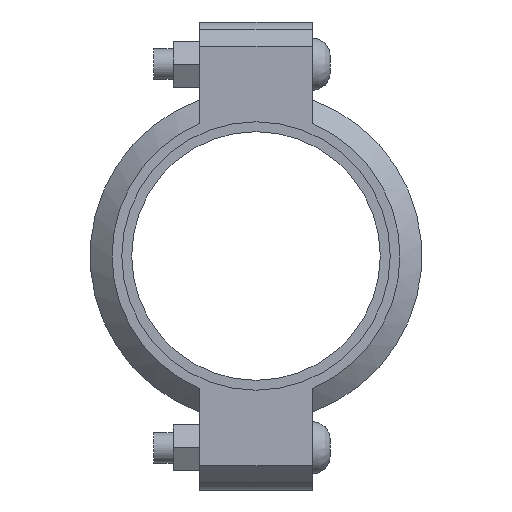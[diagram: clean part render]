
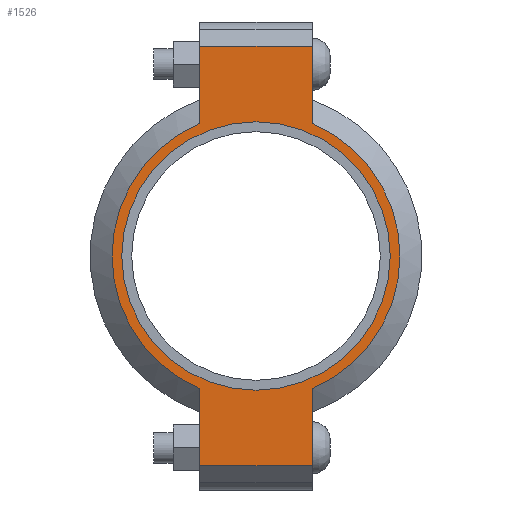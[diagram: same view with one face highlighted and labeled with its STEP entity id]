
A CAD part, left-side view. The second image highlights one B-rep face of the part: STEP entity #1526.
In plain terms, the highlighted planar face has unit normal (-1, 0, 0) as drawn and (0, 0, 1) by its records, which use the part's own axes.
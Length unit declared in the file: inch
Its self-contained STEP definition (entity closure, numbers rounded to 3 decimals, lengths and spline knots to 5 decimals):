
#150=LINE('',#2672,#243);
#158=LINE('',#2708,#251);
#165=LINE('',#2729,#258);
#174=LINE('',#2761,#267);
#175=LINE('',#2765,#268);
#176=LINE('',#2767,#269);
#243=VECTOR('',#2184,0.3937);
#251=VECTOR('',#2200,0.3937);
#258=VECTOR('',#2219,0.3937);
#267=VECTOR('',#2244,0.3937);
#268=VECTOR('',#2249,0.3937);
#269=VECTOR('',#2250,0.3937);
#325=FACE_BOUND('',#503,.T.);
#397=FACE_OUTER_BOUND('',#502,.T.);
#502=EDGE_LOOP('',(#1267,#1268,#1269,#1270,#1271,#1272,#1273,#1274));
#503=EDGE_LOOP('',(#1275));
#575=CIRCLE('',#1754,2.75);
#601=CIRCLE('',#1813,2.95);
#602=CIRCLE('',#1814,2.95);
#667=VERTEX_POINT('',#2488);
#710=VERTEX_POINT('',#2669);
#711=VERTEX_POINT('',#2671);
#722=VERTEX_POINT('',#2703);
#723=VERTEX_POINT('',#2707);
#730=VERTEX_POINT('',#2726);
#731=VERTEX_POINT('',#2728);
#741=VERTEX_POINT('',#2764);
#742=VERTEX_POINT('',#2766);
#823=EDGE_CURVE('',#667,#667,#575,.T.);
#884=EDGE_CURVE('',#711,#710,#150,.T.);
#898=EDGE_CURVE('',#723,#722,#158,.T.);
#908=EDGE_CURVE('',#731,#730,#165,.T.);
#923=EDGE_CURVE('',#723,#710,#174,.T.);
#924=EDGE_CURVE('',#722,#731,#601,.T.);
#925=EDGE_CURVE('',#741,#730,#175,.T.);
#926=EDGE_CURVE('',#741,#742,#176,.T.);
#927=EDGE_CURVE('',#742,#711,#602,.T.);
#1267=ORIENTED_EDGE('',*,*,#923,.F.);
#1268=ORIENTED_EDGE('',*,*,#898,.T.);
#1269=ORIENTED_EDGE('',*,*,#924,.T.);
#1270=ORIENTED_EDGE('',*,*,#908,.T.);
#1271=ORIENTED_EDGE('',*,*,#925,.F.);
#1272=ORIENTED_EDGE('',*,*,#926,.T.);
#1273=ORIENTED_EDGE('',*,*,#927,.T.);
#1274=ORIENTED_EDGE('',*,*,#884,.T.);
#1275=ORIENTED_EDGE('',*,*,#823,.T.);
#1368=PLANE('',#1812);
#1526=ADVANCED_FACE('',(#397,#325),#1368,.T.);
#1754=AXIS2_PLACEMENT_3D('',#2490,#2060,#2061);
#1812=AXIS2_PLACEMENT_3D('',#2762,#2245,#2246);
#1813=AXIS2_PLACEMENT_3D('',#2763,#2247,#2248);
#1814=AXIS2_PLACEMENT_3D('',#2768,#2251,#2252);
#2060=DIRECTION('center_axis',(0.,0.,-1.));
#2061=DIRECTION('ref_axis',(1.,0.,0.));
#2184=DIRECTION('',(1.,0.,0.));
#2200=DIRECTION('',(-1.,0.,0.));
#2219=DIRECTION('',(-1.,0.,0.));
#2244=DIRECTION('',(0.,-1.,0.));
#2245=DIRECTION('center_axis',(0.,0.,1.));
#2246=DIRECTION('ref_axis',(-1.,0.,0.));
#2247=DIRECTION('center_axis',(0.,0.,1.));
#2248=DIRECTION('ref_axis',(1.,0.,0.));
#2249=DIRECTION('',(0.,1.,0.));
#2250=DIRECTION('',(1.,0.,0.));
#2251=DIRECTION('center_axis',(0.,0.,1.));
#2252=DIRECTION('ref_axis',(1.,0.,0.));
#2488=CARTESIAN_POINT('',(-2.75,0.,1.065));
#2490=CARTESIAN_POINT('Origin',(0.,0.,1.065));
#2669=CARTESIAN_POINT('',(4.295,-1.15,1.065));
#2671=CARTESIAN_POINT('',(2.71662,-1.15,1.065));
#2672=CARTESIAN_POINT('',(4.795,-1.15,1.065));
#2703=CARTESIAN_POINT('',(2.71662,1.15,1.065));
#2707=CARTESIAN_POINT('',(4.295,1.15,1.065));
#2708=CARTESIAN_POINT('',(-4.795,1.15,1.065));
#2726=CARTESIAN_POINT('',(-4.295,1.15,1.065));
#2728=CARTESIAN_POINT('',(-2.71662,1.15,1.065));
#2729=CARTESIAN_POINT('',(-4.795,1.15,1.065));
#2761=CARTESIAN_POINT('',(4.295,-0.575,1.065));
#2762=CARTESIAN_POINT('Origin',(0.,0.,
1.065));
#2763=CARTESIAN_POINT('Origin',(0.,0.,1.065));
#2764=CARTESIAN_POINT('',(-4.295,-1.15,1.065));
#2765=CARTESIAN_POINT('',(-4.295,0.575,1.065));
#2766=CARTESIAN_POINT('',(-2.71662,-1.15,1.065));
#2767=CARTESIAN_POINT('',(4.795,-1.15,1.065));
#2768=CARTESIAN_POINT('Origin',(0.,0.,1.065));
